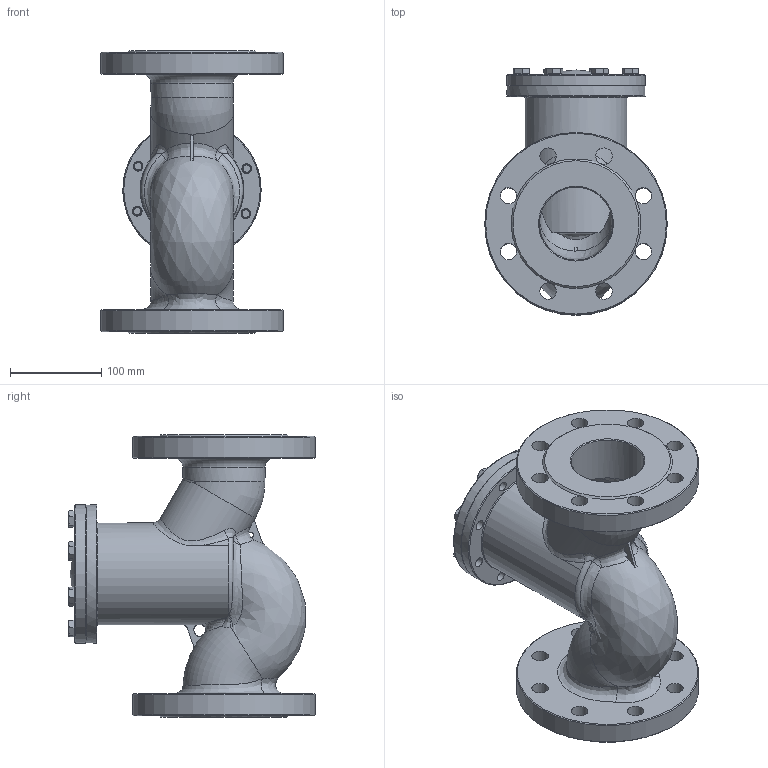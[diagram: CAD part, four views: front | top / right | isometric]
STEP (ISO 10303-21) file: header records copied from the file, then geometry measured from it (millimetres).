
FILE_DESCRIPTION(('STEP AP214'), '1');
FILE_NAME('VCR3131-F 孰囡囗 钺疣蝽 DN.ru 捏80 畜40', '', ('UNSPECIFIED'), ('UNSPECIFIED'), 'C3D Converter', 'C3D Toolkit', '');
FILE_SCHEMA(('AUTOMOTIVE_DESIGN { 1 0 10303 214 3 1 1}'));
Length unit declared in the file: millimetre
Products named in the file (1): VCR3131-F
Bounding box: 200 x 270 x 310 mm (x, y, z)
Volume: 3472101.8 mm3; surface area: 430589.2 mm2
Topology: 1 solids, 1 shells, 389 faces, 959 edges, 596 vertices
Faces by surface type: plane 191, cylinder 72, cone 64, bspline 49, torus 10, sphere 3
Full cylindrical faces by diameter (mm): 10 x8, 10.639 x16, 15 x1, 16 x8, 18 x16, 80 x3, 90 x2, 111.719 x1, 151.428 x2, 200 x2
Entity records: 26018 total; most frequent: CARTESIAN_POINT 14282, ORIENTED_EDGE 1738, DIRECTION 1621, EDGE_CURVE 869, AXIS2_PLACEMENT_3D 677, VERTEX_POINT 591, EDGE_LOOP 562, FACE_BOUND 468
